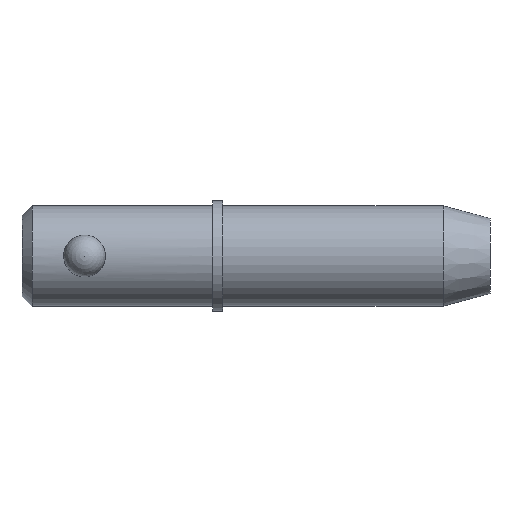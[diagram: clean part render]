
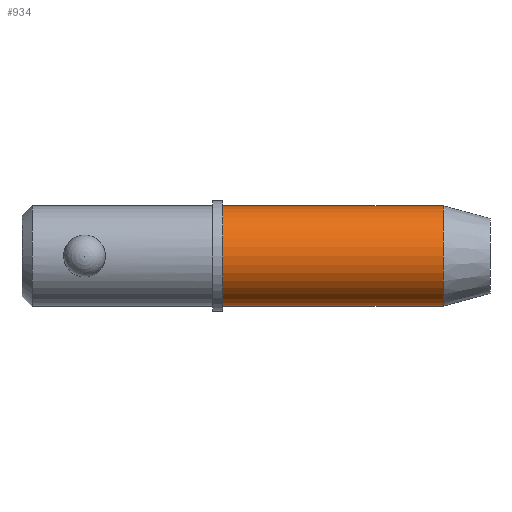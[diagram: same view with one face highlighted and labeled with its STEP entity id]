
A CAD part, front view. The second image highlights one B-rep face of the part: STEP entity #934.
In plain terms, the highlighted cylindrical face has radius 4.765 mm (diameter 9.53 mm), a partial arc.
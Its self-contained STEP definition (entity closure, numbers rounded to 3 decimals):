
#8 = DIRECTION ( 'NONE',  ( 1., 0., 0. ) ) ;
#14 = DIRECTION ( 'NONE',  ( 0., 0., -1. ) ) ;
#40 = CARTESIAN_POINT ( 'NONE',  ( 40.004, 0., 0. ) ) ;
#62 = CIRCLE ( 'NONE', #762, 4.765 ) ;
#106 = VERTEX_POINT ( 'NONE', #145 ) ;
#145 = CARTESIAN_POINT ( 'NONE',  ( 40.004, 0., -4.765 ) ) ;
#146 = AXIS2_PLACEMENT_3D ( 'NONE', #864, #301, #479 ) ;
#160 = FACE_OUTER_BOUND ( 'NONE', #563, .T. ) ;
#301 = DIRECTION ( 'NONE',  ( 1., 0., 0. ) ) ;
#303 = ORIENTED_EDGE ( 'NONE', *, *, #515, .T. ) ;
#331 = AXIS2_PLACEMENT_3D ( 'NONE', #579, #732, #14 ) ;
#373 = VERTEX_POINT ( 'NONE', #818 ) ;
#376 = CIRCLE ( 'NONE', #331, 4.765 ) ;
#393 = ORIENTED_EDGE ( 'NONE', *, *, #496, .T. ) ;
#441 = CARTESIAN_POINT ( 'NONE',  ( 40.004, 0., 4.765 ) ) ;
#468 = CARTESIAN_POINT ( 'NONE',  ( 0., 0., 4.765 ) ) ;
#476 = ORIENTED_EDGE ( 'NONE', *, *, #872, .F. ) ;
#479 = DIRECTION ( 'NONE',  ( 0., 0., -1. ) ) ;
#496 = EDGE_CURVE ( 'NONE', #735, #106, #980, .T. ) ;
#515 = EDGE_CURVE ( 'NONE', #373, #735, #376, .T. ) ;
#542 = VECTOR ( 'NONE', #8, 1000. ) ;
#555 = CYLINDRICAL_SURFACE ( 'NONE', #146, 4.765 ) ;
#563 = EDGE_LOOP ( 'NONE', ( #476, #303, #393, #1003 ) ) ;
#579 = CARTESIAN_POINT ( 'NONE',  ( 19.05, 0., 0. ) ) ;
#685 = EDGE_CURVE ( 'NONE', #866, #106, #62, .T. ) ;
#712 = LINE ( 'NONE', #468, #825 ) ;
#732 = DIRECTION ( 'NONE',  ( 1., 0., 0. ) ) ;
#735 = VERTEX_POINT ( 'NONE', #769 ) ;
#762 = AXIS2_PLACEMENT_3D ( 'NONE', #40, #996, #1012 ) ;
#769 = CARTESIAN_POINT ( 'NONE',  ( 19.05, 0., -4.765 ) ) ;
#779 = DIRECTION ( 'NONE',  ( 1., 0., 0. ) ) ;
#818 = CARTESIAN_POINT ( 'NONE',  ( 19.05, 0., 4.765 ) ) ;
#825 = VECTOR ( 'NONE', #779, 1000. ) ;
#864 = CARTESIAN_POINT ( 'NONE',  ( 0., 0., 0. ) ) ;
#866 = VERTEX_POINT ( 'NONE', #441 ) ;
#872 = EDGE_CURVE ( 'NONE', #373, #866, #712, .T. ) ;
#885 = CARTESIAN_POINT ( 'NONE',  ( 0., 0., -4.765 ) ) ;
#934 = ADVANCED_FACE ( 'NONE', ( #160 ), #555, .T. ) ;
#980 = LINE ( 'NONE', #885, #542 ) ;
#996 = DIRECTION ( 'NONE',  ( 1., 0., 0. ) ) ;
#1003 = ORIENTED_EDGE ( 'NONE', *, *, #685, .F. ) ;
#1012 = DIRECTION ( 'NONE',  ( 0., 0., -1. ) ) ;
